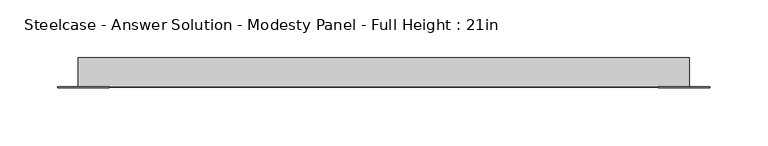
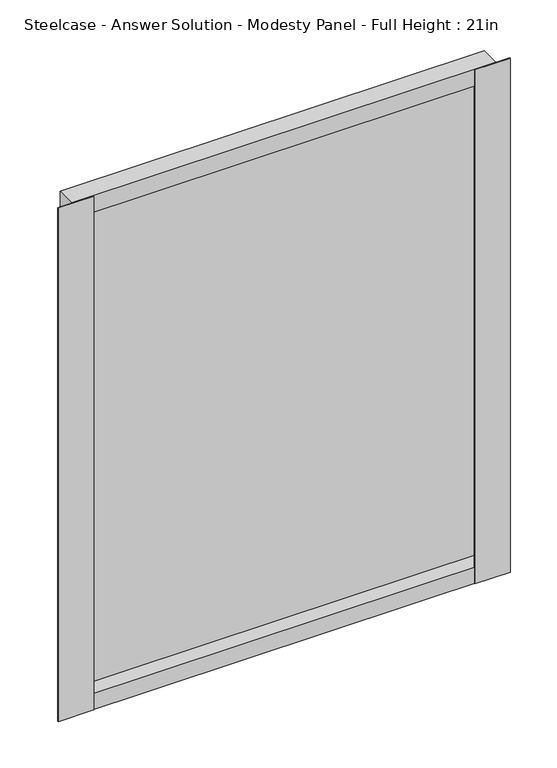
"""IFC4 building model written with IfcOpenShell, lengths in millimetres: furniture geometry, Steelcase - Answer Solution - Modesty Panel - Full Height : 21in."""

from ifc_helpers import new_model, si_unit, frame, origin, place, context, project, spatial, polyline, outline, extrude, faceted_brep, source, transform, mapped, element, save


def steelcase_answer_solution_modesty_panel_full_height_21in_4f59d7bd(model_context):
    return source(origin(), model_context, "Body", "SolidModel", [
        extrude(outline(polyline([(1076.9400478, -14.2668826), (1076.9400478, -15.0593624), (1032.5248254, -15.0593624), (1032.5248254, -14.2668826), (1076.9400478, -14.2668826)])), frame((0.0, 0.0, 17.653), z_axis=(0.0, 0.0, 1.0), x_axis=(1.0, 0.0, 0.0)), (0.0, 0.0, 1.0), 678.18),
        extrude(outline(polyline([(556.9673392, -14.2668826), (556.9673392, -15.0593624), (512.5520826, -15.0593624), (512.5520826, -14.2668826), (556.9673392, -14.2668826)])), frame((0.0, 0.0, 17.653), z_axis=(0.0, 0.0, 1.0), x_axis=(1.0, 0.0, 0.0)), (0.0, 0.0, 1.0), 678.18),
        faceted_brep([(530.0780827, 10.9045177, 17.653), (530.0780827, -14.2668826, 17.653), (530.0780827, -14.2668826, 695.833), (530.0780827, 10.9045177, 695.833), (1059.4140827, -14.2668826, 17.653), (1059.4140827, 10.9045177, 17.653), (1059.4140827, 10.9045177, 695.833), (1059.4140827, -14.2668826, 695.833), (1058.6216165, 4.7831174, 39.243), (530.8705628, 4.7831174, 39.243), (530.8705628, -14.2668826, 39.243), (1058.6216165, -14.2668826, 39.243), (530.8705628, -14.2668826, 674.243), (1058.6216165, -14.2668826, 674.243), (530.8705628, 4.7831174, 674.243), (1058.6216165, 4.7831174, 674.243)], [[[0, 1, 2, 3]], [[4, 5, 6, 7]], [[8, 9, 10, 11]], [[0, 3, 6, 5]], [[4, 1, 0, 5]], [[2, 1, 4, 7], [10, 12, 13, 11]], [[3, 2, 7, 6]], [[14, 15, 13, 12]], [[9, 8, 15, 14]], [[12, 10, 9, 14]], [[11, 13, 15, 8]]]),
    ])


if __name__ == "__main__":
    model = new_model("IFC4")
    model_context = context("Model", 3, world=origin())
    ifc_project = project(units=[si_unit("LENGTHUNIT", "METRE", prefix="MILLI")], contexts=[model_context])
    site = spatial("IfcSite", under=ifc_project)
    building = spatial("IfcBuilding", under=site)
    placement = place(None, origin())
    steelcase_answer_solution_modesty_panel_full_height_21in_shape = steelcase_answer_solution_modesty_panel_full_height_21in_4f59d7bd(model_context)
    element("IfcFurniture", 1, ObjectType="Steelcase - Answer Solution - Modesty Panel - Full Height : 21in", at=placement, inside=building, context=model_context, shape_type="MappedRepresentation", body=[
        mapped(steelcase_answer_solution_modesty_panel_full_height_21in_shape, transform((0.0, 0.0, 0.0), x_axis=(1.0, 0.0, 0.0), y_axis=(0.0, 1.0, 0.0), z_axis=(0.0, 0.0, 1.0))),
    ])
    save(model, "model.ifc")
